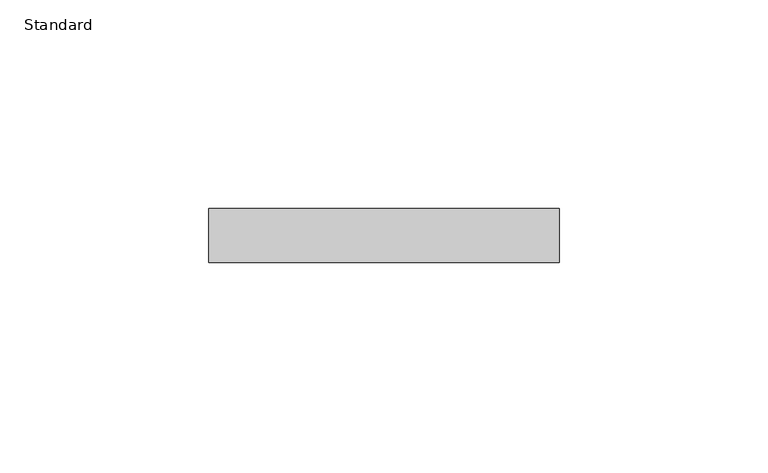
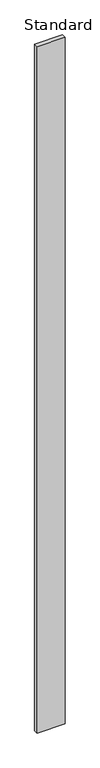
"""IFC4 building model written with IfcOpenShell, lengths in millimetres: furniture geometry, X_Partition-Compact Laminate-Duracube-Rectangular : Standard."""

from ifc_helpers import new_model, si_unit, frame, origin, place, context, project, spatial, polyline, outline, extrude, source, transform, mapped, element, save


def standard_e2e215f3(model_context):
    return source(origin(), model_context, "Body", "SweptSolid", [
        extrude(outline(polyline([(86.7003264, 0.0), (86.7003264, -13.0), (2.7003264, -13.0), (2.7003264, 0.0), (86.7003264, 0.0)])), frame((0.0, 0.0, 200.0), z_axis=(0.0, 0.0, 1.0), x_axis=(1.0, 0.0, 0.0)), (0.0, 0.0, 1.0), 2198.0),
    ])


if __name__ == "__main__":
    model = new_model("IFC4")
    model_context = context("Model", 3, world=origin())
    ifc_project = project(units=[si_unit("LENGTHUNIT", "METRE", prefix="MILLI")], contexts=[model_context])
    site = spatial("IfcSite", under=ifc_project)
    building = spatial("IfcBuilding", under=site)
    placement = place(None, origin())
    standard_shape = standard_e2e215f3(model_context)
    element("IfcFurniture", 1, ObjectType="X_Partition-Compact Laminate-Duracube-Rectangular : Standard", at=placement, inside=building, context=model_context, shape_type="MappedRepresentation", body=[
        mapped(standard_shape, transform((0.0, 0.0, 0.0), x_axis=(1.0, 0.0, 0.0), y_axis=(0.0, 1.0, 0.0), z_axis=(0.0, 0.0, 1.0))),
    ])
    save(model, "model.ifc")
